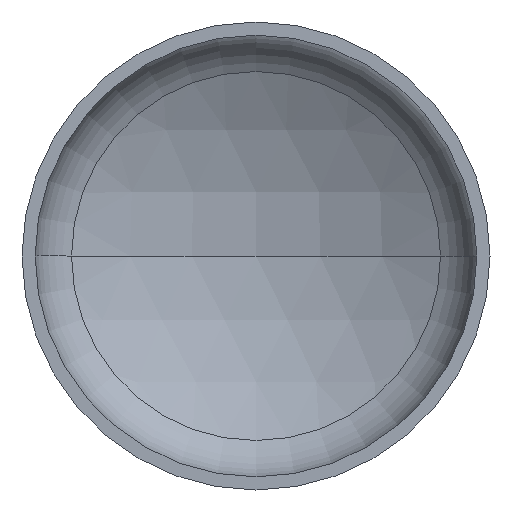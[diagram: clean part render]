
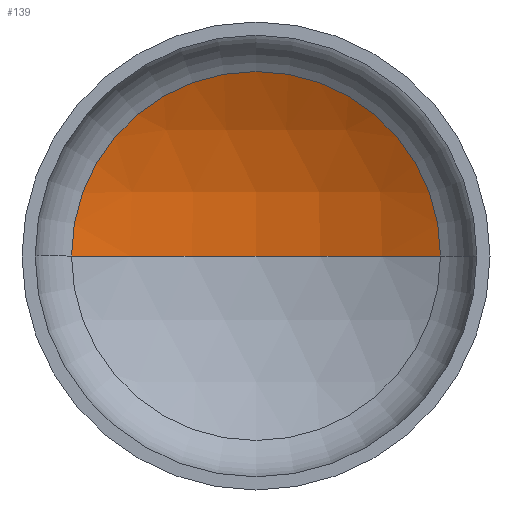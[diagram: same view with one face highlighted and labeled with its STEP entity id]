
A CAD part, front view. The second image highlights one B-rep face of the part: STEP entity #139.
In plain terms, the highlighted spherical face has radius 1280 mm.
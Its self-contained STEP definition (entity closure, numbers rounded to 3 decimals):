
#9 = AXIS2_PLACEMENT_3D ( 'NONE', #271, #316, #406 ) ;
#12 = DIRECTION ( 'NONE',  ( 1., 0., 0. ) ) ;
#18 = DIRECTION ( 'NONE',  ( 0., 0., -1. ) ) ;
#23 = CARTESIAN_POINT ( 'NONE',  ( 0., -760.625, 0. ) ) ;
#25 = AXIS2_PLACEMENT_3D ( 'NONE', #272, #163, #193 ) ;
#27 = ORIENTED_EDGE ( 'NONE', *, *, #98, .T. ) ;
#31 = AXIS2_PLACEMENT_3D ( 'NONE', #23, #18, #297 ) ;
#32 = AXIS2_PLACEMENT_3D ( 'NONE', #342, #185, #12 ) ;
#36 = CIRCLE ( 'NONE', #31, 1280. ) ;
#38 = CARTESIAN_POINT ( 'NONE',  ( 0., 519.375, 0. ) ) ;
#40 = EDGE_LOOP ( 'NONE', ( #107, #27, #224 ) ) ;
#85 = EDGE_CURVE ( 'NONE', #96, #132, #312, .T. ) ;
#96 = VERTEX_POINT ( 'NONE', #148 ) ;
#98 = EDGE_CURVE ( 'NONE', #235, #96, #36, .T. ) ;
#99 = CIRCLE ( 'NONE', #9, 1280. ) ;
#107 = ORIENTED_EDGE ( 'NONE', *, *, #355, .F. ) ;
#132 = VERTEX_POINT ( 'NONE', #408 ) ;
#139 = ADVANCED_FACE ( 'NONE', ( #368 ), #249, .F. ) ;
#148 = CARTESIAN_POINT ( 'NONE',  ( 630.725, 353.191, 0. ) ) ;
#163 = DIRECTION ( 'NONE',  ( 0., 0., -1. ) ) ;
#185 = DIRECTION ( 'NONE',  ( 0., -1., 0. ) ) ;
#193 = DIRECTION ( 'NONE',  ( -1., 0., 0. ) ) ;
#224 = ORIENTED_EDGE ( 'NONE', *, *, #85, .T. ) ;
#235 = VERTEX_POINT ( 'NONE', #38 ) ;
#249 = SPHERICAL_SURFACE ( 'NONE', #25, 1280. ) ;
#271 = CARTESIAN_POINT ( 'NONE',  ( 0., -760.625, 0. ) ) ;
#272 = CARTESIAN_POINT ( 'NONE',  ( 0., -760.625, 0. ) ) ;
#297 = DIRECTION ( 'NONE',  ( -1., 0., 0. ) ) ;
#312 = CIRCLE ( 'NONE', #32, 630.725 ) ;
#316 = DIRECTION ( 'NONE',  ( 0., 0., 1. ) ) ;
#342 = CARTESIAN_POINT ( 'NONE',  ( 0., 353.191, 0. ) ) ;
#355 = EDGE_CURVE ( 'NONE', #235, #132, #99, .T. ) ;
#368 = FACE_OUTER_BOUND ( 'NONE', #40, .T. ) ;
#406 = DIRECTION ( 'NONE',  ( 1., 0., 0. ) ) ;
#408 = CARTESIAN_POINT ( 'NONE',  ( -630.725, 353.191, 0. ) ) ;
